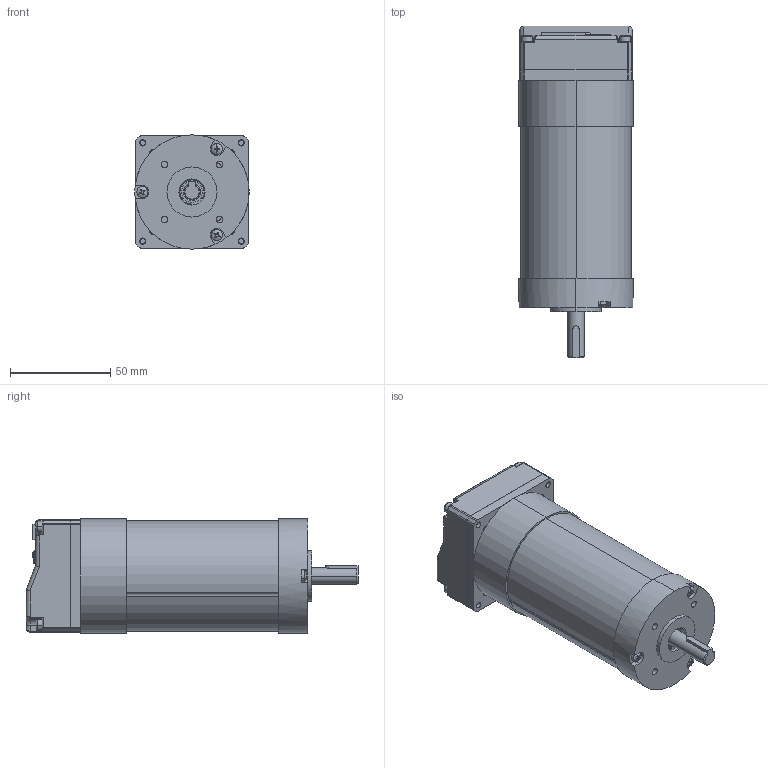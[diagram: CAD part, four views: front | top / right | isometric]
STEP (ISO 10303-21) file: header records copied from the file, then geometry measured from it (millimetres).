
FILE_DESCRIPTION((''),'2;1');
FILE_NAME('DM4D1_NEMA23_ASM','2021-01-27T11:02:27',('Matteo Maccalli'),(''),'CREO PARAMETRIC BY PTC INC, 2019344','CREO PARAMETRIC BY PTC INC, 2019344','');
FILE_SCHEMA(('AUTOMOTIVE_DESIGN { 1 0 10303 214 1 1 1 1 }'));
Length unit declared in the file: millimetre
Products named in the file (86): CONTROFLANGIA_DM4D1; MC-01040; OPEN_CASCADE_STEP_TRANSLATOR_6_; BOARD_ASM; 878325122; CN6_ASM; USER_LIBRARY-LQFP64_GRID_0-6030; USER_LIBRARY-LQFP64_GRID_0-6795; LQFP64_GRID_0_5_ASM; IC403_ASM; _FTS-105-01-F-DV-P-TR_BODY; _FTS-105-01-F-DV-P-TR_PINS1; _FTS-105-01-F-DV-P-TR_PINS2; FTS-105-01-F-DV-P-TR_1_ASM_ASM; FTS-105-01-F-DV-P-TR_ASM; J402_ASM; LED_0805_1; LED400_ASM; LED_0805; LED401_ASM; PG-DSO-8-7_1; PG-DSO-8-7_2; PG-DSO-8-7_3; PG-DSO-8-7_4; PG-DSO-8-7_5; PG-DSO-8-7_6; PG-DSO-8-7_7; PG-DSO-8-7_8; PG-DSO-8-7_9; PG-DSO-8-7_10; PG-DSO-8-7_11; PG-DSO-8-7_12; PG-DSO-8-7_13; PG-DSO-8-7_14; PG-DSO-8-7_15; PG-DSO-8-7_16; PG-DSO-8-7_17; PG-DSO-8-7_18; PG-DSO-8-7_19; PG-DSO-8-7_20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
Assembly tree (156 placements, depth 8):
  DM4D1_NEMA23_ASM
    CONTROFLANGIA_DM4D1
    MC-01040
    ASM0003_ASM
      PCB_ASM
        BOARD_ASM
          OPEN_CASCADE_STEP_TRANSLATOR_6_
        CN6_ASM
          878325122
        IC403_ASM
          LQFP64_GRID_0_5_ASM
            USER_LIBRARY-LQFP64_GRID_0-6030
            USER_LIBRARY-LQFP64_GRID_0-6795  x64
        J402_ASM
          FTS-105-01-F-DV-P-TR_ASM
            FTS-105-01-F-DV-P-TR_1_ASM_ASM
              _FTS-105-01-F-DV-P-TR_BODY
              _FTS-105-01-F-DV-P-TR_PINS1
              _FTS-105-01-F-DV-P-TR_PINS2
        LED400_ASM
          LED_0805_1
        LED401_ASM
          LED_0805
        U700_ASM
          PG-DSO-8-7_ASM
            PG-DSO-8-7_1
            PG-DSO-8-7_2
            PG-DSO-8-7_3
            PG-DSO-8-7_4
            PG-DSO-8-7_5
            PG-DSO-8-7_6
            PG-DSO-8-7_7
            PG-DSO-8-7_8
            PG-DSO-8-7_9
            PG-DSO-8-7_10
            PG-DSO-8-7_11
            PG-DSO-8-7_12
            PG-DSO-8-7_13
            PG-DSO-8-7_14
            PG-DSO-8-7_15
            PG-DSO-8-7_16
            PG-DSO-8-7_17
            PG-DSO-8-7_18
            PG-DSO-8-7_19
            PG-DSO-8-7_20
            PG-DSO-8-7_21
            PG-DSO-8-7_22
            PG-DSO-8-7_23
            PG-DSO-8-7_24
        W600_ASM
          6859060736_ASM
            EXTRUDED
        CE200_ASM
          SCE-D8_ASM
            SCE-D8_1
            SCE-D8_2
            SCE-D8_3
            SCE-D8_4
            SCE-D8_5
        CN1_ASM
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Bounding box: 57 x 165.6 x 57 mm (x, y, z)
Volume: 188086.8 mm3; surface area: 153371.7 mm2
Topology: 129 solids, 131 shells, 8068 faces, 20304 edges, 12187 vertices
Faces by surface type: plane 4045, cylinder 2710, torus 640, sphere 594, cone 57, bspline 19, extrusion 3
Entity records: 179239 total; most frequent: CARTESIAN_POINT 28859, DIRECTION 25413, ORIENTED_EDGE 25368, EDGE_CURVE 12684, VECTOR 9511, LINE 9508, VERTEX_POINT 8290, AXIS2_PLACEMENT_3D 7951
